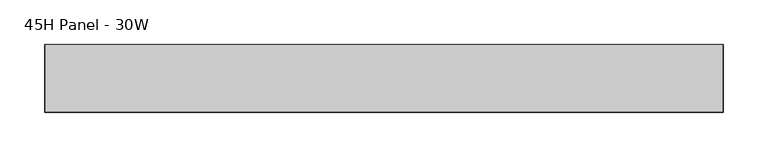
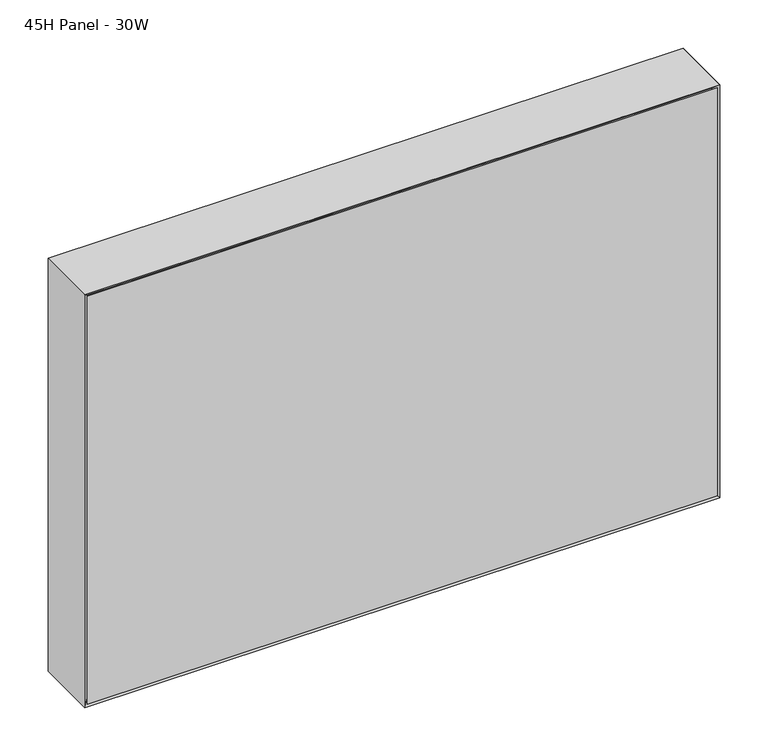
"""IFC4 building model written with IfcOpenShell, lengths in millimetres: furniture geometry, Steelcase - Montage - Frame - 20H - Enhanced Standard - Single Stack-On : 45H Panel - 30W."""

import ifcopenshell
import ifcopenshell.guid

model = None  # the IFC model being written
_history = None  # IfcOwnerHistory: only IFC2X3 demands one
_inside = {}  # id of a spatial element -> (the spatial element, [elements in it])
_under = {}  # id of a project, library or spatial element -> (it, [spatial elements below it])
_declared = {}  # id of a project -> (the project, [libraries it declares])
_typed = {}  # id of a type object -> (the type object, [elements of that type])
_made_of = {}  # id of a material, layer set ... -> (it, [elements and type objects made of it])


def new_model(schema):
    """Start an empty IFC model of exactly this schema.

    Asked for "IFC4X3", IfcOpenShell would pick the latest addendum, in which some entities
    have other attributes; the version numbers below select the first issue.
    IFC2X3 requires an IfcOwnerHistory on every rooted entity: one is made here for all.
    """
    global model, _history
    if schema == "IFC4X3":
        model = ifcopenshell.file(schema_version=(4, 3, 0, 0))
    else:
        model = ifcopenshell.file(schema=schema)
    _inside.clear()
    _under.clear()
    _declared.clear()
    _typed.clear()
    _made_of.clear()
    _history = None
    if model.schema == "IFC2X3":
        org = make("IfcOrganization", Name="unknown")
        user = make(
            "IfcPersonAndOrganization",
            ThePerson=make("IfcPerson", FamilyName="unknown"),
            TheOrganization=org,
        )
        app = make(
            "IfcApplication",
            ApplicationDeveloper=org,
            Version="unknown",
            ApplicationFullName="unknown",
            ApplicationIdentifier="unknown",
        )
        _history = make(
            "IfcOwnerHistory",
            OwningUser=user,
            OwningApplication=app,
            ChangeAction="ADDED",
            CreationDate=0,
        )
    return model


def make(cls, **values):
    """One entity of the class cls with the attributes given. An attribute that is None is left unset."""
    return model.create_entity(
        cls, **{name: value for name, value in values.items() if value is not None}
    )


def rooted(cls, **values):
    """An entity with a GlobalId (a new one), such as an element, a storey or a relation."""
    return make(cls, GlobalId=ifcopenshell.guid.new(), OwnerHistory=_history, **values)


def si_unit(unit_type, name, prefix=None):
    """IfcSIUnit, for example si_unit("LENGTHUNIT", "METRE", prefix="MILLI")."""
    return make("IfcSIUnit", UnitType=unit_type, Prefix=prefix, Name=name)


def assignment(units):
    """IfcUnitAssignment: the units of a project."""
    return None if units is None else make("IfcUnitAssignment", Units=units)


def point(xyz):
    """IfcCartesianPoint."""
    return None if xyz is None else make("IfcCartesianPoint", Coordinates=xyz)


def direction(xyz):
    """IfcDirection."""
    return None if xyz is None else make("IfcDirection", DirectionRatios=xyz)


def frame(location, z_axis=None, x_axis=None):
    """IfcAxis2Placement3D, a coordinate frame: its origin and axes. An axis left out is left unset."""
    return make(
        "IfcAxis2Placement3D",
        Location=point(location),
        Axis=direction(z_axis),
        RefDirection=direction(x_axis),
    )


def origin():
    """The frame at (0, 0, 0) with its axes left unset."""
    return frame((0.0, 0.0, 0.0))


def place(relative_to, where):
    """IfcLocalPlacement: puts the frame where relative to a parent placement (None: the world)."""
    return make(
        "IfcLocalPlacement", PlacementRelTo=relative_to, RelativePlacement=where
    )


def context(
    kind, dimensions, precision=None, world=None, true_north=None, identifier=None
):
    """IfcGeometricRepresentationContext, for example the 3D "Model" context."""
    return make(
        "IfcGeometricRepresentationContext",
        ContextIdentifier=identifier,
        ContextType=kind,
        CoordinateSpaceDimension=dimensions,
        Precision=precision,
        WorldCoordinateSystem=world,
        TrueNorth=true_north,
    )


def project(units=None, contexts=None):
    """IfcProject with its units and contexts."""
    return rooted(
        "IfcProject",
        Name="project",
        RepresentationContexts=contexts,
        UnitsInContext=assignment(units),
    )


def spatial(cls, under=None, at=None, **own):
    """A site, building, storey or space (cls), placed at a placement, below another one or the project."""
    s = rooted(cls, ObjectPlacement=at, **own)
    if under is not None:
        _under.setdefault(under.id(), (under, []))[1].append(s)
    return s


def polyline(points):
    """IfcPolyline through the points."""
    return make("IfcPolyline", Points=[point(p) for p in points])


def outline(outer, holes=None, kind="AREA"):
    """IfcArbitraryClosedProfileDef: a profile drawn as a closed curve; with holes, ...WithVoids."""
    if holes is None:
        return make("IfcArbitraryClosedProfileDef", ProfileType=kind, OuterCurve=outer)
    return make(
        "IfcArbitraryProfileDefWithVoids",
        ProfileType=kind,
        OuterCurve=outer,
        InnerCurves=holes,
    )


def extrude(swept, where, along, depth):
    """IfcExtrudedAreaSolid: the profile swept, set in the frame where, extruded along a direction by depth."""
    return make(
        "IfcExtrudedAreaSolid",
        SweptArea=swept,
        Position=where,
        ExtrudedDirection=direction(along),
        Depth=depth,
    )


def faces_of(points, faces, orient=None, outer=None):
    """IfcFace entities. A face is a list of loops; a loop is a list of indices into points, from 0.

    orient and outer hold one flag for each loop. By default every Orientation is true, the
    first loop of a face is its IfcFaceOuterBound and the others are IfcFaceBound.
    """
    made = []
    for i, loops in enumerate(faces):
        bounds = []
        for j, loop in enumerate(loops):
            is_outer = j == 0 if outer is None else outer[i][j]
            bounds.append(
                make(
                    "IfcFaceOuterBound" if is_outer else "IfcFaceBound",
                    Bound=make("IfcPolyLoop", Polygon=[points[k] for k in loop]),
                    Orientation=True if orient is None else orient[i][j],
                )
            )
        made.append(make("IfcFace", Bounds=bounds))
    return made


def faceted_brep(points, faces, orient=None, outer=None, voids=None):
    """IfcFacetedBrep: a solid bounded by flat faces; with voids (closed shells), ...WithVoids."""
    shared = [point(p) for p in points]
    hull = make("IfcClosedShell", CfsFaces=faces_of(shared, faces, orient, outer))
    if voids is None:
        return make("IfcFacetedBrep", Outer=hull)
    return make(
        "IfcFacetedBrepWithVoids",
        Outer=hull,
        Voids=[
            make(cls, CfsFaces=faces_of(shared, fs, o, b)) for cls, fs, o, b in voids
        ],
    )


def shape(context_of_items, identifier, shape_type, items):
    """IfcShapeRepresentation: the items that make up one representation, for example the "Body"."""
    return make(
        "IfcShapeRepresentation",
        ContextOfItems=context_of_items,
        RepresentationIdentifier=identifier,
        RepresentationType=shape_type,
        Items=items,
    )


def source(mapping_origin, context_of_items, identifier, shape_type, items):
    """IfcRepresentationMap: a shape defined once, which mapped items show again and again."""
    return make(
        "IfcRepresentationMap",
        MappingOrigin=mapping_origin,
        MappedRepresentation=shape(context_of_items, identifier, shape_type, items),
    )


def transform(
    local_origin,
    x_axis=None,
    y_axis=None,
    z_axis=None,
    scale=None,
    scale2=None,
    scale3=None,
    uniform=True,
):
    """IfcCartesianTransformationOperator3D, or its non-uniform kind. x_axis, y_axis, z_axis: its Axis1, 2, 3."""
    if uniform:
        return make(
            "IfcCartesianTransformationOperator3D",
            Axis1=direction(x_axis),
            Axis2=direction(y_axis),
            LocalOrigin=point(local_origin),
            Scale=scale,
            Axis3=direction(z_axis),
        )
    return make(
        "IfcCartesianTransformationOperator3DnonUniform",
        Axis1=direction(x_axis),
        Axis2=direction(y_axis),
        LocalOrigin=point(local_origin),
        Scale=scale,
        Axis3=direction(z_axis),
        Scale2=scale2,
        Scale3=scale3,
    )


def mapped(mapping_source, mapping_target):
    """IfcMappedItem: shows the shape of a source again, moved by a transform."""
    return make(
        "IfcMappedItem", MappingSource=mapping_source, MappingTarget=mapping_target
    )


def made_of(thing, what):
    """Note that an element or type object is made of a material, layer set ...; save() writes the relation."""
    if what is not None:
        _made_of.setdefault(what.id(), (what, []))[1].append(thing)
    return thing


def element(
    cls,
    number,
    at=None,
    inside=None,
    cuts=None,
    type_object=None,
    material=None,
    context=None,
    identifier="Body",
    shape_type=None,
    held_by="IfcProductDefinitionShape",
    body=None,
    shapes=None,
    **own,
):
    """One element of the class cls, such as IfcWall. Its Tag is "e" and its number.

    at: its placement. inside: the storey or other place that contains it. cuts: it is an
    opening in that element (IfcRelVoidsElement). A single representation is given by context,
    identifier, shape_type and body (its items); several are given by shapes. held_by: the class
    of the entity that holds the representations. save() writes the other relations.
    """
    e = rooted(cls, Tag="e%d" % number, ObjectPlacement=at, **own)
    if body is not None:
        shapes = [shape(context, identifier, shape_type, body)]
    if shapes is not None:
        e.Representation = make(held_by, Representations=shapes)
    if inside is not None:
        _inside.setdefault(inside.id(), (inside, []))[1].append(e)
    if cuts is not None:
        rooted(
            "IfcRelVoidsElement", RelatingBuildingElement=cuts, RelatedOpeningElement=e
        )
    if type_object is not None:
        _typed.setdefault(type_object.id(), (type_object, []))[1].append(e)
    return made_of(e, material)


def aggregate(whole, parts):
    """IfcRelAggregates: a whole, such as a stair, and the parts it consists of."""
    return rooted("IfcRelAggregates", RelatingObject=whole, RelatedObjects=parts)


def save(model, path):
    """Write the relations noted so far, then the file.

    IfcRelAggregates (storeys below a building ...), IfcRelContainedInSpatialStructure (elements
    in a storey), IfcRelDefinesByType, IfcRelAssociatesMaterial and IfcRelDeclares: one each for
    every whole, place, type object, material and project.
    """
    for whole, parts in _under.values():
        aggregate(whole, parts)
    for where, things in _inside.values():
        rooted(
            "IfcRelContainedInSpatialStructure",
            RelatedElements=things,
            RelatingStructure=where,
        )
    for kind, things in _typed.values():
        rooted("IfcRelDefinesByType", RelatedObjects=things, RelatingType=kind)
    for what, things in _made_of.values():
        rooted("IfcRelAssociatesMaterial", RelatedObjects=things, RelatingMaterial=what)
    for by, libraries in _declared.values():
        rooted("IfcRelDeclares", RelatingContext=by, RelatedDefinitions=libraries)
    model.write(path)


def furniture_45h_panel_30w_52134a44(model_context):
    return source(origin(), model_context, "Body", "SolidModel", [
        faceted_brep([(752.4750027, 31.7500194, 1650.9999516), (9.5250028, 31.7500194, 1650.9999516), (9.5250028, 31.7500194, 1146.175), (752.4750027, 31.7500194, 1146.175), (758.825, 38.1000194, 1657.3499516), (758.825, 38.1000194, 1139.825), (3.175, 38.1000194, 1139.825), (3.175, 38.1000194, 1657.3499516)], [[[0, 1, 2, 3]], [[4, 5, 6, 7]], [[4, 0, 3, 5]], [[5, 3, 2, 6]], [[6, 2, 1, 7]], [[7, 1, 0, 4]]]),
        faceted_brep([(752.4750027, -31.7500194, 1650.9999516), (752.4750027, -31.7500194, 1146.175), (9.5250028, -31.7500194, 1146.175), (9.5250028, -31.7500194, 1650.9999516), (758.825, -38.1000194, 1657.3499516), (3.175, -38.1000194, 1657.3499516), (3.175, -38.1000194, 1139.825), (758.825, -38.1000194, 1139.825)], [[[0, 1, 2, 3]], [[4, 5, 6, 7]], [[4, 7, 1, 0]], [[7, 6, 2, 1]], [[6, 5, 3, 2]], [[5, 4, 0, 3]]]),
        faceted_brep([(762.0, -38.1000015, 1136.65), (762.0, 38.1000015, 1136.65), (762.0, 38.1000015, 1660.5249516), (762.0, -38.1000106, 1660.5249515), (0.0, 38.1000015, 1136.65), (0.0, -38.1000015, 1136.65), (0.0, -38.1000015, 1660.5249516), (0.0, 38.1000015, 1660.5249516), (6.3500484, 31.749953, 1143.0000484), (755.6499879, 31.749953, 1143.0000484), (6.35, -31.749953, 1143.0000484), (755.6499879, -31.749953, 1143.0000484), (6.3500165, 31.749985, 1654.174935), (6.3500006, -31.7500009, 1654.1749031), (755.6499879, -31.7499979, 1654.1749031), (755.6499879, 31.7499889, 1654.1749394)], [[[0, 1, 2, 3]], [[4, 5, 6, 7]], [[1, 0, 5, 4]], [[1, 4, 8, 9]], [[9, 8, 10, 11]], [[5, 0, 11, 10]], [[4, 7, 12, 8]], [[6, 5, 10, 13]], [[10, 8, 12, 13]], [[9, 11, 14, 15]], [[0, 3, 14, 11]], [[2, 1, 9, 15]], [[3, 2, 15, 14]], [[7, 6, 13, 12]]]),
        faceted_brep([(762.0, -38.1000015, 1660.5249516), (0.0, -38.1000015, 1660.5249516), (6.3500484, -31.749953, 1654.1749031), (755.6499516, -31.749953, 1654.1749031), (6.3500484, 31.749953, 1654.1749031), (755.6499516, 31.749953, 1654.1749031), (0.0, 38.1000015, 1660.5249516), (762.0, 38.1000015, 1660.5249516)], [[[0, 1, 2, 3]], [[3, 2, 4, 5]], [[6, 7, 5, 4]], [[1, 0, 7, 6]], [[2, 1, 6, 4]], [[0, 3, 5, 7]]]),
        extrude(outline(polyline([(755.6499879, 31.7500016), (755.6499879, -31.7499985), (6.35, -31.7499985), (6.35, 31.7500016), (755.6499879, 31.7500016)])), frame((0.0, 0.0, 1142.9952145), z_axis=(0.0, 0.0, 1.0), x_axis=(1.0, 0.0, 0.0)), (0.0, 0.0, 1.0), 511.1796886),
    ])


if __name__ == "__main__":
    model = new_model("IFC4")
    model_context = context("Model", 3, world=origin())
    ifc_project = project(units=[si_unit("LENGTHUNIT", "METRE", prefix="MILLI")], contexts=[model_context])
    site = spatial("IfcSite", under=ifc_project)
    building = spatial("IfcBuilding", under=site)
    placement = place(None, origin())
    furniture_45h_panel_30w_shape = furniture_45h_panel_30w_52134a44(model_context)
    element("IfcFurniture", 1, ObjectType="Steelcase - Montage - Frame - 20H - Enhanced Standard - Single Stack-On : 45H Panel - 30W", at=placement, inside=building, context=model_context, shape_type="MappedRepresentation", body=[
        mapped(furniture_45h_panel_30w_shape, transform((0.0, 0.0, 0.0), x_axis=(1.0, 0.0, 0.0), y_axis=(0.0, 1.0, 0.0), z_axis=(0.0, 0.0, 1.0))),
    ])
    save(model, "model.ifc")
